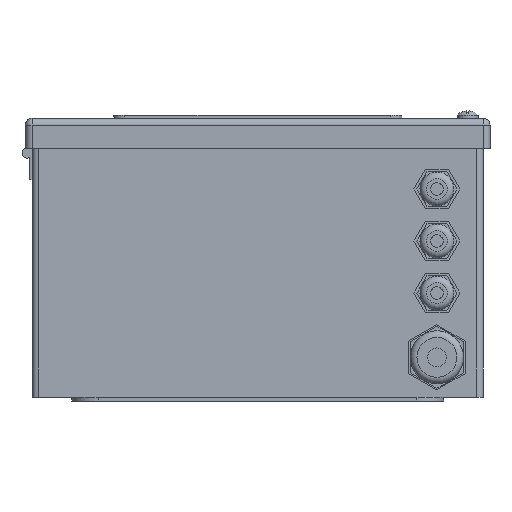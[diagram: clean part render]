
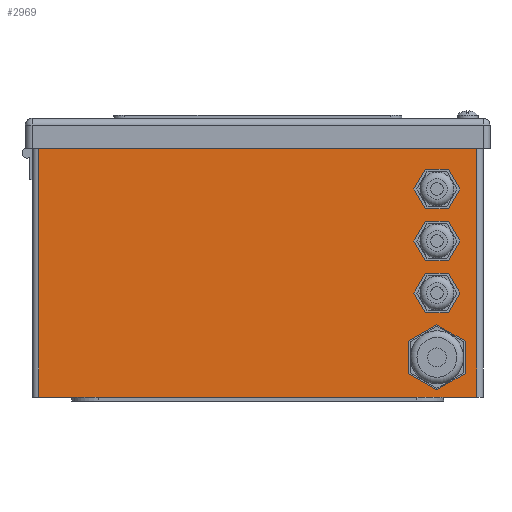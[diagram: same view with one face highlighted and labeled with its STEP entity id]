
A CAD part, front view. The second image highlights one B-rep face of the part: STEP entity #2969.
In plain terms, the highlighted planar face has unit normal (0, -1, 0).
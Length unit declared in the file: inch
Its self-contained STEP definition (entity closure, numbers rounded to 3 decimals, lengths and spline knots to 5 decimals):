
#473=CARTESIAN_POINT('',(3.15849,-5.,4.295));
#474=VERTEX_POINT('',#473);
#481=CARTESIAN_POINT('',(2.94199,-5.,3.92));
#482=VERTEX_POINT('',#481);
#483=CARTESIAN_POINT('',(2.94199,-5.0,3.92));
#484=DIRECTION('',(0.5,0.0,0.866));
#485=VECTOR('',#484,0.43301);
#486=LINE('',#483,#485);
#487=EDGE_CURVE('',#482,#474,#486,.T.);
#511=CARTESIAN_POINT('',(3.59151,-5.,4.295));
#512=VERTEX_POINT('',#511);
#519=CARTESIAN_POINT('',(3.15849,-5.0,4.295));
#520=DIRECTION('',(1.0,0.0,0.0));
#521=VECTOR('',#520,0.43301);
#522=LINE('',#519,#521);
#523=EDGE_CURVE('',#474,#512,#522,.T.);
#542=CARTESIAN_POINT('',(3.80801,-5.,3.92));
#543=VERTEX_POINT('',#542);
#550=CARTESIAN_POINT('',(3.59151,-5.0,4.295));
#551=DIRECTION('',(0.5,0.0,-0.866));
#552=VECTOR('',#551,0.43301);
#553=LINE('',#550,#552);
#554=EDGE_CURVE('',#512,#543,#553,.T.);
#573=CARTESIAN_POINT('',(3.59151,-5.,3.545));
#574=VERTEX_POINT('',#573);
#581=CARTESIAN_POINT('',(3.80801,-5.0,3.92));
#582=DIRECTION('',(-0.5,0.0,-0.866));
#583=VECTOR('',#582,0.43301);
#584=LINE('',#581,#583);
#585=EDGE_CURVE('',#543,#574,#584,.T.);
#604=CARTESIAN_POINT('',(3.15849,-5.,3.545));
#605=VERTEX_POINT('',#604);
#612=CARTESIAN_POINT('',(3.59151,-5.0,3.545));
#613=DIRECTION('',(-1.0,0.0,0.0));
#614=VECTOR('',#613,0.43301);
#615=LINE('',#612,#614);
#616=EDGE_CURVE('',#574,#605,#615,.T.);
#634=CARTESIAN_POINT('',(3.15849,-5.0,3.545));
#635=DIRECTION('',(-0.5,0.0,0.866));
#636=VECTOR('',#635,0.43301);
#637=LINE('',#634,#636);
#638=EDGE_CURVE('',#605,#482,#637,.T.);
#1004=CARTESIAN_POINT('',(3.15849,-5.,3.315));
#1005=VERTEX_POINT('',#1004);
#1012=CARTESIAN_POINT('',(2.94199,-5.,2.94));
#1013=VERTEX_POINT('',#1012);
#1014=CARTESIAN_POINT('',(2.94199,-5.0,2.94));
#1015=DIRECTION('',(0.5,0.0,0.866));
#1016=VECTOR('',#1015,0.43301);
#1017=LINE('',#1014,#1016);
#1018=EDGE_CURVE('',#1013,#1005,#1017,.T.);
#1042=CARTESIAN_POINT('',(3.59151,-5.,3.315));
#1043=VERTEX_POINT('',#1042);
#1050=CARTESIAN_POINT('',(3.15849,-5.0,3.315));
#1051=DIRECTION('',(1.0,0.0,0.0));
#1052=VECTOR('',#1051,0.43301);
#1053=LINE('',#1050,#1052);
#1054=EDGE_CURVE('',#1005,#1043,#1053,.T.);
#1073=CARTESIAN_POINT('',(3.80801,-5.,2.94));
#1074=VERTEX_POINT('',#1073);
#1081=CARTESIAN_POINT('',(3.59151,-5.0,3.315));
#1082=DIRECTION('',(0.5,0.0,-0.866));
#1083=VECTOR('',#1082,0.43301);
#1084=LINE('',#1081,#1083);
#1085=EDGE_CURVE('',#1043,#1074,#1084,.T.);
#1104=CARTESIAN_POINT('',(3.59151,-5.,2.565));
#1105=VERTEX_POINT('',#1104);
#1112=CARTESIAN_POINT('',(3.80801,-5.0,2.94));
#1113=DIRECTION('',(-0.5,0.0,-0.866));
#1114=VECTOR('',#1113,0.43301);
#1115=LINE('',#1112,#1114);
#1116=EDGE_CURVE('',#1074,#1105,#1115,.T.);
#1135=CARTESIAN_POINT('',(3.15849,-5.,2.565));
#1136=VERTEX_POINT('',#1135);
#1143=CARTESIAN_POINT('',(3.59151,-5.0,2.565));
#1144=DIRECTION('',(-1.0,0.0,0.0));
#1145=VECTOR('',#1144,0.43301);
#1146=LINE('',#1143,#1145);
#1147=EDGE_CURVE('',#1105,#1136,#1146,.T.);
#1165=CARTESIAN_POINT('',(3.15849,-5.0,2.565));
#1166=DIRECTION('',(-0.5,0.0,0.866));
#1167=VECTOR('',#1166,0.43301);
#1168=LINE('',#1165,#1167);
#1169=EDGE_CURVE('',#1136,#1013,#1168,.T.);
#1563=CARTESIAN_POINT('',(3.15849,-5.,2.335));
#1564=VERTEX_POINT('',#1563);
#1571=CARTESIAN_POINT('',(2.94199,-5.,1.96));
#1572=VERTEX_POINT('',#1571);
#1573=CARTESIAN_POINT('',(2.94199,-5.0,1.96));
#1574=DIRECTION('',(0.5,0.0,0.866));
#1575=VECTOR('',#1574,0.43301);
#1576=LINE('',#1573,#1575);
#1577=EDGE_CURVE('',#1572,#1564,#1576,.T.);
#1601=CARTESIAN_POINT('',(3.59151,-5.,2.335));
#1602=VERTEX_POINT('',#1601);
#1609=CARTESIAN_POINT('',(3.15849,-5.0,2.335));
#1610=DIRECTION('',(1.0,0.0,0.0));
#1611=VECTOR('',#1610,0.43301);
#1612=LINE('',#1609,#1611);
#1613=EDGE_CURVE('',#1564,#1602,#1612,.T.);
#1632=CARTESIAN_POINT('',(3.80801,-5.,1.96));
#1633=VERTEX_POINT('',#1632);
#1640=CARTESIAN_POINT('',(3.59151,-5.0,2.335));
#1641=DIRECTION('',(0.5,0.0,-0.866));
#1642=VECTOR('',#1641,0.43301);
#1643=LINE('',#1640,#1642);
#1644=EDGE_CURVE('',#1602,#1633,#1643,.T.);
#1663=CARTESIAN_POINT('',(3.59151,-5.,1.585));
#1664=VERTEX_POINT('',#1663);
#1671=CARTESIAN_POINT('',(3.80801,-5.0,1.96));
#1672=DIRECTION('',(-0.5,0.0,-0.866));
#1673=VECTOR('',#1672,0.43301);
#1674=LINE('',#1671,#1673);
#1675=EDGE_CURVE('',#1633,#1664,#1674,.T.);
#1694=CARTESIAN_POINT('',(3.15849,-5.,1.585));
#1695=VERTEX_POINT('',#1694);
#1702=CARTESIAN_POINT('',(3.59151,-5.0,1.585));
#1703=DIRECTION('',(-1.0,0.0,0.0));
#1704=VECTOR('',#1703,0.43301);
#1705=LINE('',#1702,#1704);
#1706=EDGE_CURVE('',#1664,#1695,#1705,.T.);
#1724=CARTESIAN_POINT('',(3.15849,-5.0,1.585));
#1725=DIRECTION('',(-0.5,0.0,0.866));
#1726=VECTOR('',#1725,0.43301);
#1727=LINE('',#1724,#1726);
#1728=EDGE_CURVE('',#1695,#1572,#1727,.T.);
#2122=CARTESIAN_POINT('',(3.905,-5.,0.444));
#2123=VERTEX_POINT('',#2122);
#2130=CARTESIAN_POINT('',(3.905,-5.,1.056));
#2131=VERTEX_POINT('',#2130);
#2132=CARTESIAN_POINT('',(3.905,-5.0,1.056));
#2133=DIRECTION('',(0.0,0.0,-1.0));
#2134=VECTOR('',#2133,0.61199);
#2135=LINE('',#2132,#2134);
#2136=EDGE_CURVE('',#2131,#2123,#2135,.T.);
#2160=CARTESIAN_POINT('',(3.375,-5.,0.13801));
#2161=VERTEX_POINT('',#2160);
#2168=CARTESIAN_POINT('',(3.905,-5.0,0.444));
#2169=DIRECTION('',(-0.866,0.0,-0.5));
#2170=VECTOR('',#2169,0.61199);
#2171=LINE('',#2168,#2170);
#2172=EDGE_CURVE('',#2123,#2161,#2171,.T.);
#2191=CARTESIAN_POINT('',(2.845,-5.,0.444));
#2192=VERTEX_POINT('',#2191);
#2199=CARTESIAN_POINT('',(3.375,-5.0,0.13801));
#2200=DIRECTION('',(-0.866,0.0,0.5));
#2201=VECTOR('',#2200,0.61199);
#2202=LINE('',#2199,#2201);
#2203=EDGE_CURVE('',#2161,#2192,#2202,.T.);
#2222=CARTESIAN_POINT('',(2.845,-5.,1.056));
#2223=VERTEX_POINT('',#2222);
#2230=CARTESIAN_POINT('',(2.845,-5.0,0.444));
#2231=DIRECTION('',(0.0,0.0,1.0));
#2232=VECTOR('',#2231,0.61199);
#2233=LINE('',#2230,#2232);
#2234=EDGE_CURVE('',#2192,#2223,#2233,.T.);
#2253=CARTESIAN_POINT('',(3.375,-5.,1.36199));
#2254=VERTEX_POINT('',#2253);
#2261=CARTESIAN_POINT('',(2.845,-5.0,1.056));
#2262=DIRECTION('',(0.866,0.0,0.5));
#2263=VECTOR('',#2262,0.61199);
#2264=LINE('',#2261,#2263);
#2265=EDGE_CURVE('',#2223,#2254,#2264,.T.);
#2283=CARTESIAN_POINT('',(3.375,-5.0,1.36199));
#2284=DIRECTION('',(0.866,0.0,-0.5));
#2285=VECTOR('',#2284,0.61199);
#2286=LINE('',#2283,#2285);
#2287=EDGE_CURVE('',#2254,#2131,#2286,.T.);
#2375=CARTESIAN_POINT('',(3.5,-5.0,0.0));
#2376=VERTEX_POINT('',#2375);
#2383=CARTESIAN_POINT('',(-3.5,-5.,0.0));
#2384=VERTEX_POINT('',#2383);
#2385=CARTESIAN_POINT('',(3.5,-5.0,0.0));
#2386=DIRECTION('',(-1.0,0.0,0.0));
#2387=VECTOR('',#2386,7.);
#2388=LINE('',#2385,#2387);
#2389=EDGE_CURVE('',#2376,#2384,#2388,.T.);
#2766=CARTESIAN_POINT('',(4.125,-5.0,0.0));
#2767=VERTEX_POINT('',#2766);
#2775=CARTESIAN_POINT('',(4.125,-5.0,0.0));
#2776=DIRECTION('',(-1.0,0.0,0.0));
#2777=VECTOR('',#2776,0.625);
#2778=LINE('',#2775,#2777);
#2779=EDGE_CURVE('',#2767,#2376,#2778,.T.);
#2803=CARTESIAN_POINT('',(-4.125,-5.,0.0));
#2804=VERTEX_POINT('',#2803);
#2805=CARTESIAN_POINT('',(-3.5,-5.,0.0));
#2806=DIRECTION('',(-1.0,0.0,0.0));
#2807=VECTOR('',#2806,0.625);
#2808=LINE('',#2805,#2807);
#2809=EDGE_CURVE('',#2384,#2804,#2808,.T.);
#2894=CARTESIAN_POINT('',(4.125,-5.0,4.69));
#2895=VERTEX_POINT('',#2894);
#2903=CARTESIAN_POINT('',(4.125,-5.0,4.69));
#2904=DIRECTION('',(0.0,0.0,-1.0));
#2905=VECTOR('',#2904,4.69);
#2906=LINE('',#2903,#2905);
#2907=EDGE_CURVE('',#2895,#2767,#2906,.T.);
#2912=CARTESIAN_POINT('',(4.25,-5.0,0.0));
#2913=DIRECTION('',(0.0,-1.0,0.0));
#2914=DIRECTION('',(0.0,0.0,-1.0));
#2915=AXIS2_PLACEMENT_3D('',#2912,#2913,#2914);
#2916=PLANE('',#2915);
#2917=ORIENTED_EDGE('',*,*,#2907,.F.);
#2918=CARTESIAN_POINT('',(-4.125,-5.,4.69));
#2919=VERTEX_POINT('',#2918);
#2920=CARTESIAN_POINT('',(4.125,-5.0,4.69));
#2921=DIRECTION('',(-1.0,0.0,0.0));
#2922=VECTOR('',#2921,8.25);
#2923=LINE('',#2920,#2922);
#2924=EDGE_CURVE('',#2895,#2919,#2923,.T.);
#2925=ORIENTED_EDGE('',*,*,#2924,.T.);
#2926=CARTESIAN_POINT('',(-4.125,-5.,0.0));
#2927=DIRECTION('',(0.0,0.0,1.0));
#2928=VECTOR('',#2927,4.69);
#2929=LINE('',#2926,#2928);
#2930=EDGE_CURVE('',#2804,#2919,#2929,.T.);
#2931=ORIENTED_EDGE('',*,*,#2930,.F.);
#2932=ORIENTED_EDGE('',*,*,#2809,.F.);
#2933=ORIENTED_EDGE('',*,*,#2389,.F.);
#2934=ORIENTED_EDGE('',*,*,#2779,.F.);
#2935=EDGE_LOOP('',(#2917,#2925,#2931,#2932,#2933,#2934));
#2936=FACE_OUTER_BOUND('',#2935,.T.);
#2937=ORIENTED_EDGE('',*,*,#487,.T.);
#2938=ORIENTED_EDGE('',*,*,#523,.T.);
#2939=ORIENTED_EDGE('',*,*,#554,.T.);
#2940=ORIENTED_EDGE('',*,*,#585,.T.);
#2941=ORIENTED_EDGE('',*,*,#616,.T.);
#2942=ORIENTED_EDGE('',*,*,#638,.T.);
#2943=EDGE_LOOP('',(#2937,#2938,#2939,#2940,#2941,#2942));
#2944=FACE_BOUND('',#2943,.T.);
#2945=ORIENTED_EDGE('',*,*,#1018,.T.);
#2946=ORIENTED_EDGE('',*,*,#1054,.T.);
#2947=ORIENTED_EDGE('',*,*,#1085,.T.);
#2948=ORIENTED_EDGE('',*,*,#1116,.T.);
#2949=ORIENTED_EDGE('',*,*,#1147,.T.);
#2950=ORIENTED_EDGE('',*,*,#1169,.T.);
#2951=EDGE_LOOP('',(#2945,#2946,#2947,#2948,#2949,#2950));
#2952=FACE_BOUND('',#2951,.T.);
#2953=ORIENTED_EDGE('',*,*,#1577,.T.);
#2954=ORIENTED_EDGE('',*,*,#1613,.T.);
#2955=ORIENTED_EDGE('',*,*,#1644,.T.);
#2956=ORIENTED_EDGE('',*,*,#1675,.T.);
#2957=ORIENTED_EDGE('',*,*,#1706,.T.);
#2958=ORIENTED_EDGE('',*,*,#1728,.T.);
#2959=EDGE_LOOP('',(#2953,#2954,#2955,#2956,#2957,#2958));
#2960=FACE_BOUND('',#2959,.T.);
#2961=ORIENTED_EDGE('',*,*,#2136,.T.);
#2962=ORIENTED_EDGE('',*,*,#2172,.T.);
#2963=ORIENTED_EDGE('',*,*,#2203,.T.);
#2964=ORIENTED_EDGE('',*,*,#2234,.T.);
#2965=ORIENTED_EDGE('',*,*,#2265,.T.);
#2966=ORIENTED_EDGE('',*,*,#2287,.T.);
#2967=EDGE_LOOP('',(#2961,#2962,#2963,#2964,#2965,#2966));
#2968=FACE_BOUND('',#2967,.T.);
#2969=ADVANCED_FACE('',(#2936,#2944,#2952,#2960,#2968),#2916,.T.);
